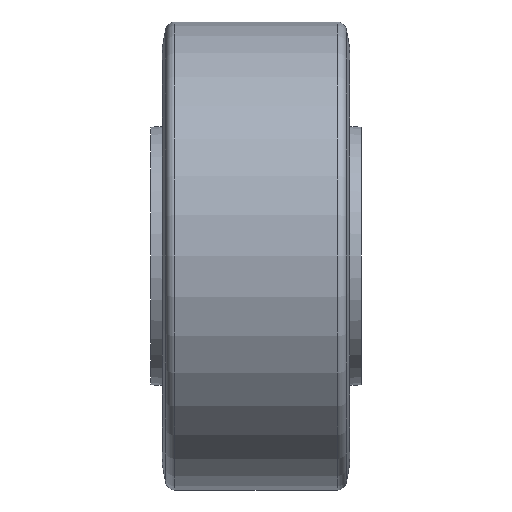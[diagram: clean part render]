
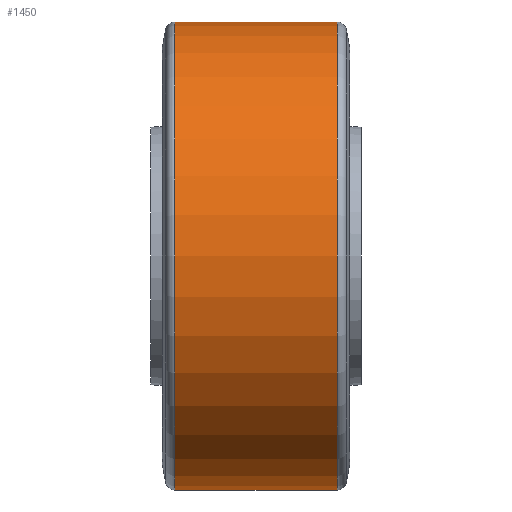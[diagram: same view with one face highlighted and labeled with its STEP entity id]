
A CAD part, front view. The second image highlights one B-rep face of the part: STEP entity #1450.
In plain terms, the highlighted cylindrical face has radius 50 mm (diameter 100 mm), a partial arc.
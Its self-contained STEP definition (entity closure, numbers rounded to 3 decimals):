
#8 = EDGE_CURVE ( 'NONE', #451, #1332, #878, .T. ) ;
#11 = ORIENTED_EDGE ( 'NONE', *, *, #228, .F. ) ;
#99 = ORIENTED_EDGE ( 'NONE', *, *, #8, .F. ) ;
#109 = CIRCLE ( 'NONE', #345, 50. ) ;
#123 = EDGE_LOOP ( 'NONE', ( #99, #853, #1124, #11 ) ) ;
#214 = CARTESIAN_POINT ( 'NONE',  ( -17.352, 0., 50. ) ) ;
#228 = EDGE_CURVE ( 'NONE', #1332, #1456, #109, .T. ) ;
#345 = AXIS2_PLACEMENT_3D ( 'NONE', #1287, #818, #474 ) ;
#443 = DIRECTION ( 'NONE',  ( -1., 0., 0. ) ) ;
#451 = VERTEX_POINT ( 'NONE', #1039 ) ;
#474 = DIRECTION ( 'NONE',  ( 0., 0., 1. ) ) ;
#540 = CARTESIAN_POINT ( 'NONE',  ( -17.352, 0., -50. ) ) ;
#551 = CARTESIAN_POINT ( 'NONE',  ( 0., 0., 0. ) ) ;
#583 = EDGE_CURVE ( 'NONE', #844, #1456, #1304, .T. ) ;
#660 = CARTESIAN_POINT ( 'NONE',  ( 17.352, 0., 0. ) ) ;
#688 = VECTOR ( 'NONE', #1129, 1000. ) ;
#762 = FACE_OUTER_BOUND ( 'NONE', #123, .T. ) ;
#814 = VECTOR ( 'NONE', #1068, 1000. ) ;
#818 = DIRECTION ( 'NONE',  ( -1., 0., 0. ) ) ;
#833 = CARTESIAN_POINT ( 'NONE',  ( 0., 0., 50. ) ) ;
#834 = AXIS2_PLACEMENT_3D ( 'NONE', #551, #1260, #1009 ) ;
#844 = VERTEX_POINT ( 'NONE', #868 ) ;
#853 = ORIENTED_EDGE ( 'NONE', *, *, #1254, .T. ) ;
#868 = CARTESIAN_POINT ( 'NONE',  ( 17.352, 0., 50. ) ) ;
#878 = LINE ( 'NONE', #1459, #688 ) ;
#1009 = DIRECTION ( 'NONE',  ( 0., 0., 1. ) ) ;
#1039 = CARTESIAN_POINT ( 'NONE',  ( 17.352, 0., -50. ) ) ;
#1057 = AXIS2_PLACEMENT_3D ( 'NONE', #660, #443, #1121 ) ;
#1068 = DIRECTION ( 'NONE',  ( -1., 0., 0. ) ) ;
#1077 = CYLINDRICAL_SURFACE ( 'NONE', #834, 50. ) ;
#1121 = DIRECTION ( 'NONE',  ( 0., 0., 1. ) ) ;
#1124 = ORIENTED_EDGE ( 'NONE', *, *, #583, .T. ) ;
#1129 = DIRECTION ( 'NONE',  ( -1., 0., 0. ) ) ;
#1183 = CIRCLE ( 'NONE', #1057, 50. ) ;
#1254 = EDGE_CURVE ( 'NONE', #451, #844, #1183, .T. ) ;
#1260 = DIRECTION ( 'NONE',  ( -1., 0., 0. ) ) ;
#1287 = CARTESIAN_POINT ( 'NONE',  ( -17.352, 0., 0. ) ) ;
#1304 = LINE ( 'NONE', #833, #814 ) ;
#1332 = VERTEX_POINT ( 'NONE', #540 ) ;
#1450 = ADVANCED_FACE ( 'NONE', ( #762 ), #1077, .T. ) ;
#1456 = VERTEX_POINT ( 'NONE', #214 ) ;
#1459 = CARTESIAN_POINT ( 'NONE',  ( 0., 0., -50. ) ) ;
